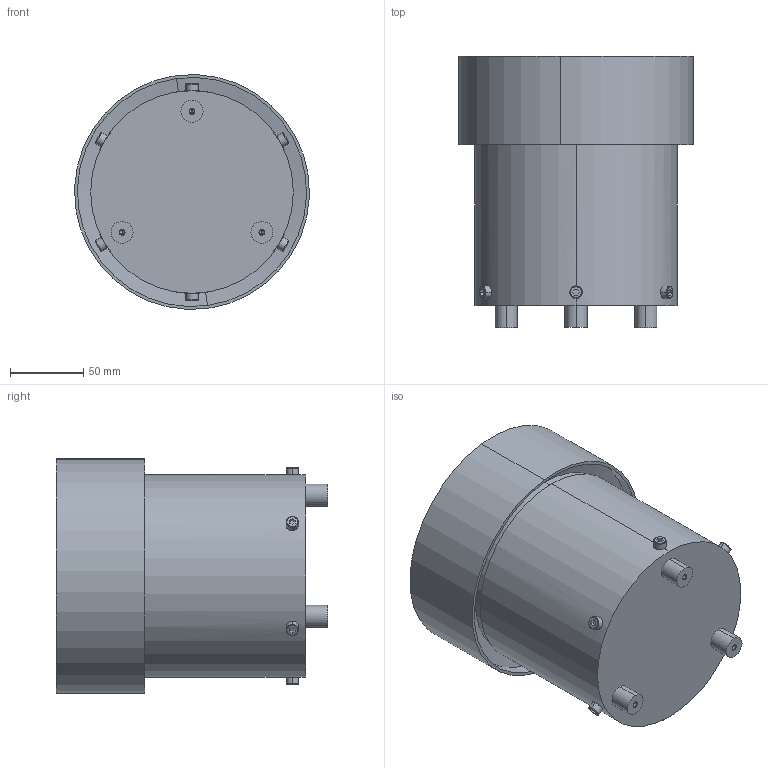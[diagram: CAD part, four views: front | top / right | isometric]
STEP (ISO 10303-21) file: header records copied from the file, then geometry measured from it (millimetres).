
FILE_DESCRIPTION (( 'STEP AP214' ), '1' );
FILE_NAME ('PW160_Q160x60_LEWY_WIBRAMET.STEP', '2020-10-27T11:33:39', ( '' ), ( '' ), 'SwSTEP 2.0', 'SolidWorks 2017', '' );
FILE_SCHEMA (( 'AUTOMOTIVE_DESIGN' ));
Length unit declared in the file: millimetre
Products named in the file (5): plain washer large grade ac_iso_Washer ISO 7093 - 8; Q160x60L-20-10; PW160_WIBRAMET; PW160_Q160x60_LEWY_WIBRAMET; socket head cap screw_iso_ISO 4762 M8 x 20 - 20N
Assembly tree (4 placements, depth 2):
  PW160_Q160x60_LEWY_WIBRAMET
    PW160_WIBRAMET
    Q160x60L-20-10
    plain washer large grade ac_iso_Washer ISO 7093 - 8
    socket head cap screw_iso_ISO 4762 M8 x 20 - 20N
Bounding box: 159.88 x 184.59 x 159.88 mm (x, y, z)
Volume: 756711.5 mm3; surface area: 267660.5 mm2
Topology: 4 solids, 4 shells, 179 faces, 402 edges, 247 vertices
Faces by surface type: plane 79, cylinder 54, cone 26, torus 16, bspline 4
Entity records: 6739 total; most frequent: CARTESIAN_POINT 2278, DIRECTION 872, ORIENTED_EDGE 788, EDGE_CURVE 394, AXIS2_PLACEMENT_3D 326, VERTEX_POINT 247, LINE 220, VECTOR 220
